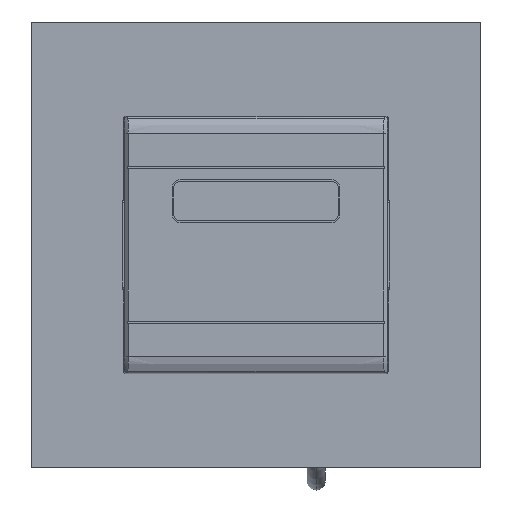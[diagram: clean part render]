
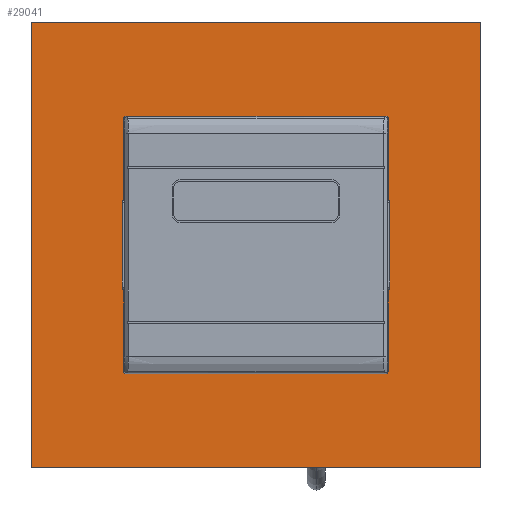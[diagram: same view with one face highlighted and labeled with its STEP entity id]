
A CAD part, top view. The second image highlights one B-rep face of the part: STEP entity #29041.
In plain terms, the highlighted planar face has unit normal (0, 0, 1).
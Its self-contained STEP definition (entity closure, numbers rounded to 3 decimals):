
#28640=DIRECTION('',(0.,-1.,0.));
#28641=VECTOR('',#28640,207.4);
#28642=CARTESIAN_POINT('',(104.5,103.7,0.));
#28643=LINE('',#28642,#28641);
#28644=DIRECTION('',(0.,1.,0.));
#28645=VECTOR('',#28644,207.4);
#28646=CARTESIAN_POINT('',(-104.5,-103.7,0.));
#28647=LINE('',#28646,#28645);
#28648=DIRECTION('',(1.,0.,0.));
#28649=VECTOR('',#28648,209.);
#28650=CARTESIAN_POINT('',(-104.5,103.7,0.));
#28651=LINE('',#28650,#28649);
#28652=CARTESIAN_POINT('',(-54.5,-53.7,0.));
#28653=DIRECTION('',(0.,0.,1.));
#28654=DIRECTION('',(1.,0.,0.));
#28655=AXIS2_PLACEMENT_3D('',#28652,#28653,#28654);
#28657=CARTESIAN_POINT('',(-54.5,-53.7,0.));
#28658=DIRECTION('',(0.,0.,1.));
#28659=DIRECTION('',(-1.,0.,0.));
#28660=AXIS2_PLACEMENT_3D('',#28657,#28658,#28659);
#28662=CARTESIAN_POINT('',(54.5,-53.7,0.));
#28663=DIRECTION('',(0.,0.,1.));
#28664=DIRECTION('',(1.,0.,0.));
#28665=AXIS2_PLACEMENT_3D('',#28662,#28663,#28664);
#28667=CARTESIAN_POINT('',(54.5,-53.7,0.));
#28668=DIRECTION('',(0.,0.,1.));
#28669=DIRECTION('',(-1.,0.,0.));
#28670=AXIS2_PLACEMENT_3D('',#28667,#28668,#28669);
#28672=CARTESIAN_POINT('',(54.5,53.7,0.));
#28673=DIRECTION('',(0.,0.,1.));
#28674=DIRECTION('',(-1.,0.,0.));
#28675=AXIS2_PLACEMENT_3D('',#28672,#28673,#28674);
#28677=CARTESIAN_POINT('',(54.5,53.7,0.));
#28678=DIRECTION('',(0.,0.,1.));
#28679=DIRECTION('',(1.,0.,0.));
#28680=AXIS2_PLACEMENT_3D('',#28677,#28678,#28679);
#28682=CARTESIAN_POINT('',(-54.5,53.7,0.));
#28683=DIRECTION('',(0.,0.,1.));
#28684=DIRECTION('',(-1.,0.,0.));
#28685=AXIS2_PLACEMENT_3D('',#28682,#28683,#28684);
#28687=CARTESIAN_POINT('',(-54.5,53.7,0.));
#28688=DIRECTION('',(0.,0.,1.));
#28689=DIRECTION('',(1.,0.,0.));
#28690=AXIS2_PLACEMENT_3D('',#28687,#28688,#28689);
#28692=DIRECTION('',(0.,-1.,0.));
#28693=VECTOR('',#28692,89.96);
#28694=CARTESIAN_POINT('',(-52.48,44.98,0.));
#28695=LINE('',#28694,#28693);
#28696=CARTESIAN_POINT('',(-45.48,-44.98,0.));
#28697=DIRECTION('',(0.,0.,1.));
#28698=DIRECTION('',(-1.,0.,0.));
#28699=AXIS2_PLACEMENT_3D('',#28696,#28697,#28698);
#28701=CARTESIAN_POINT('',(45.48,-44.98,0.));
#28702=DIRECTION('',(0.,0.,1.));
#28703=DIRECTION('',(0.,-1.,0.));
#28704=AXIS2_PLACEMENT_3D('',#28701,#28702,#28703);
#28706=DIRECTION('',(0.,1.,0.));
#28707=VECTOR('',#28706,89.96);
#28708=CARTESIAN_POINT('',(52.48,-44.98,0.));
#28709=LINE('',#28708,#28707);
#28710=CARTESIAN_POINT('',(45.48,44.98,0.));
#28711=DIRECTION('',(0.,0.,1.));
#28712=DIRECTION('',(1.,0.,0.));
#28713=AXIS2_PLACEMENT_3D('',#28710,#28711,#28712);
#28715=DIRECTION('',(-1.,0.,0.));
#28716=VECTOR('',#28715,90.96);
#28717=CARTESIAN_POINT('',(45.48,51.98,0.));
#28718=LINE('',#28717,#28716);
#28719=CARTESIAN_POINT('',(-45.48,44.98,0.));
#28720=DIRECTION('',(0.,0.,1.));
#28721=DIRECTION('',(0.,1.,0.));
#28722=AXIS2_PLACEMENT_3D('',#28719,#28720,#28721);
#28824=DIRECTION('',(1.,0.,0.));
#28825=VECTOR('',#28824,209.);
#28826=CARTESIAN_POINT('',(-104.5,-103.7,0.));
#28827=LINE('',#28826,#28825);
#28872=DIRECTION('',(-1.,0.,0.));
#28873=VECTOR('',#28872,90.96);
#28874=CARTESIAN_POINT('',(45.48,-51.98,0.));
#28875=LINE('',#28874,#28873);
#28904=CARTESIAN_POINT('',(104.5,103.7,0.));
#28905=CARTESIAN_POINT('',(104.5,-103.7,0.));
#28906=VERTEX_POINT('',#28904);
#28907=VERTEX_POINT('',#28905);
#28908=CARTESIAN_POINT('',(-104.5,-103.7,0.));
#28909=VERTEX_POINT('',#28908);
#28910=CARTESIAN_POINT('',(-104.5,103.7,0.));
#28911=VERTEX_POINT('',#28910);
#28912=CARTESIAN_POINT('',(-53.65,-53.7,0.));
#28913=CARTESIAN_POINT('',(-55.35,-53.7,0.));
#28914=VERTEX_POINT('',#28912);
#28915=VERTEX_POINT('',#28913);
#28916=CARTESIAN_POINT('',(55.35,-53.7,0.));
#28917=CARTESIAN_POINT('',(53.65,-53.7,0.));
#28918=VERTEX_POINT('',#28916);
#28919=VERTEX_POINT('',#28917);
#28920=CARTESIAN_POINT('',(53.65,53.7,0.));
#28921=CARTESIAN_POINT('',(55.35,53.7,0.));
#28922=VERTEX_POINT('',#28920);
#28923=VERTEX_POINT('',#28921);
#28924=CARTESIAN_POINT('',(-55.35,53.7,0.));
#28925=CARTESIAN_POINT('',(-53.65,53.7,0.));
#28926=VERTEX_POINT('',#28924);
#28927=VERTEX_POINT('',#28925);
#28928=CARTESIAN_POINT('',(-52.48,44.98,0.));
#28929=CARTESIAN_POINT('',(-52.48,-44.98,0.));
#28930=VERTEX_POINT('',#28928);
#28931=VERTEX_POINT('',#28929);
#28932=CARTESIAN_POINT('',(-45.48,-51.98,0.));
#28933=VERTEX_POINT('',#28932);
#28934=CARTESIAN_POINT('',(45.48,-51.98,0.));
#28935=VERTEX_POINT('',#28934);
#28936=CARTESIAN_POINT('',(52.48,-44.98,0.));
#28937=VERTEX_POINT('',#28936);
#28938=CARTESIAN_POINT('',(52.48,44.98,0.));
#28939=VERTEX_POINT('',#28938);
#28940=CARTESIAN_POINT('',(45.48,51.98,0.));
#28941=VERTEX_POINT('',#28940);
#28942=CARTESIAN_POINT('',(-45.48,51.98,0.));
#28943=VERTEX_POINT('',#28942);
#28984=CARTESIAN_POINT('',(0.,0.,0.));
#28985=DIRECTION('',(0.,0.,1.));
#28986=DIRECTION('',(1.,0.,0.));
#28987=AXIS2_PLACEMENT_3D('',#28984,#28985,#28986);
#28988=PLANE('',#28987);
#28990=ORIENTED_EDGE('',*,*,#28989,.T.);
#28992=ORIENTED_EDGE('',*,*,#28991,.F.);
#28994=ORIENTED_EDGE('',*,*,#28993,.T.);
#28996=ORIENTED_EDGE('',*,*,#28995,.T.);
#28997=EDGE_LOOP('',(#28990,#28992,#28994,#28996));
#28998=FACE_OUTER_BOUND('',#28997,.F.);
#29000=ORIENTED_EDGE('',*,*,#28999,.T.);
#29002=ORIENTED_EDGE('',*,*,#29001,.T.);
#29003=EDGE_LOOP('',(#29000,#29002));
#29004=FACE_BOUND('',#29003,.F.);
#29006=ORIENTED_EDGE('',*,*,#29005,.T.);
#29008=ORIENTED_EDGE('',*,*,#29007,.T.);
#29009=EDGE_LOOP('',(#29006,#29008));
#29010=FACE_BOUND('',#29009,.F.);
#29012=ORIENTED_EDGE('',*,*,#29011,.T.);
#29014=ORIENTED_EDGE('',*,*,#29013,.T.);
#29015=EDGE_LOOP('',(#29012,#29014));
#29016=FACE_BOUND('',#29015,.F.);
#29018=ORIENTED_EDGE('',*,*,#29017,.T.);
#29020=ORIENTED_EDGE('',*,*,#29019,.T.);
#29021=EDGE_LOOP('',(#29018,#29020));
#29022=FACE_BOUND('',#29021,.F.);
#29024=ORIENTED_EDGE('',*,*,#29023,.T.);
#29026=ORIENTED_EDGE('',*,*,#29025,.T.);
#29028=ORIENTED_EDGE('',*,*,#29027,.F.);
#29030=ORIENTED_EDGE('',*,*,#29029,.T.);
#29032=ORIENTED_EDGE('',*,*,#29031,.T.);
#29034=ORIENTED_EDGE('',*,*,#29033,.T.);
#29036=ORIENTED_EDGE('',*,*,#29035,.T.);
#29038=ORIENTED_EDGE('',*,*,#29037,.T.);
#29039=EDGE_LOOP('',(#29024,#29026,#29028,#29030,#29032,#29034,#29036,#29038));
#29040=FACE_BOUND('',#29039,.F.);
#29041=ADVANCED_FACE('',(#28998,#29004,#29010,#29016,#29022,#29040),#28988,.T.);
#28656=CIRCLE('',#28655,0.85);
#28661=CIRCLE('',#28660,0.85);
#28666=CIRCLE('',#28665,0.85);
#28671=CIRCLE('',#28670,0.85);
#28676=CIRCLE('',#28675,0.85);
#28681=CIRCLE('',#28680,0.85);
#28686=CIRCLE('',#28685,0.85);
#28691=CIRCLE('',#28690,0.85);
#28700=CIRCLE('',#28699,7.);
#28705=CIRCLE('',#28704,7.);
#28714=CIRCLE('',#28713,7.);
#28723=CIRCLE('',#28722,7.);
#28989=EDGE_CURVE('',#28906,#28907,#28643,.T.);
#28991=EDGE_CURVE('',#28909,#28907,#28827,.T.);
#28993=EDGE_CURVE('',#28909,#28911,#28647,.T.);
#28995=EDGE_CURVE('',#28911,#28906,#28651,.T.);
#28999=EDGE_CURVE('',#28914,#28915,#28656,.T.);
#29001=EDGE_CURVE('',#28915,#28914,#28661,.T.);
#29005=EDGE_CURVE('',#28918,#28919,#28666,.T.);
#29007=EDGE_CURVE('',#28919,#28918,#28671,.T.);
#29011=EDGE_CURVE('',#28922,#28923,#28676,.T.);
#29013=EDGE_CURVE('',#28923,#28922,#28681,.T.);
#29017=EDGE_CURVE('',#28926,#28927,#28686,.T.);
#29019=EDGE_CURVE('',#28927,#28926,#28691,.T.);
#29023=EDGE_CURVE('',#28930,#28931,#28695,.T.);
#29025=EDGE_CURVE('',#28931,#28933,#28700,.T.);
#29027=EDGE_CURVE('',#28935,#28933,#28875,.T.);
#29029=EDGE_CURVE('',#28935,#28937,#28705,.T.);
#29031=EDGE_CURVE('',#28937,#28939,#28709,.T.);
#29033=EDGE_CURVE('',#28939,#28941,#28714,.T.);
#29035=EDGE_CURVE('',#28941,#28943,#28718,.T.);
#29037=EDGE_CURVE('',#28943,#28930,#28723,.T.);
